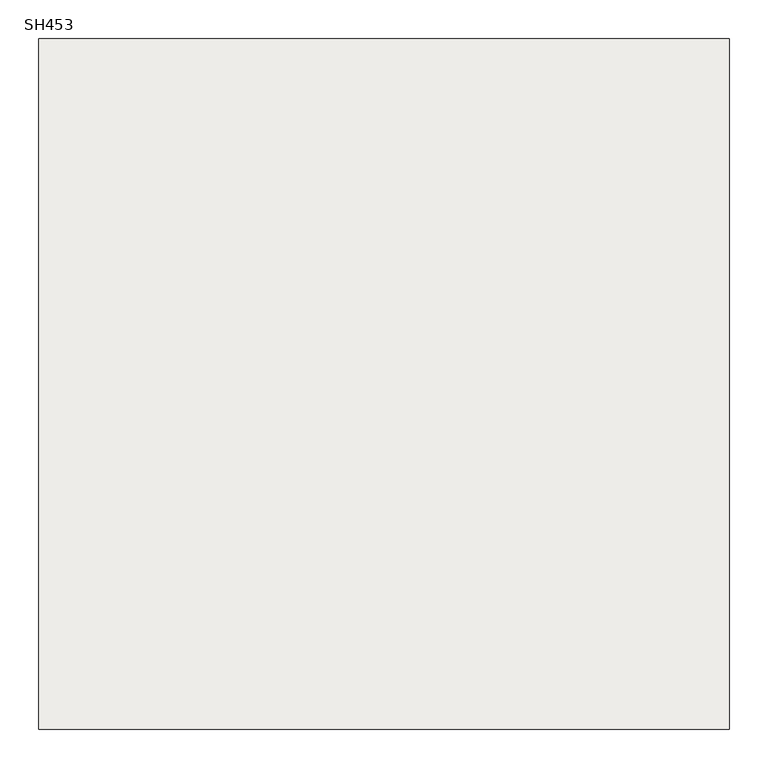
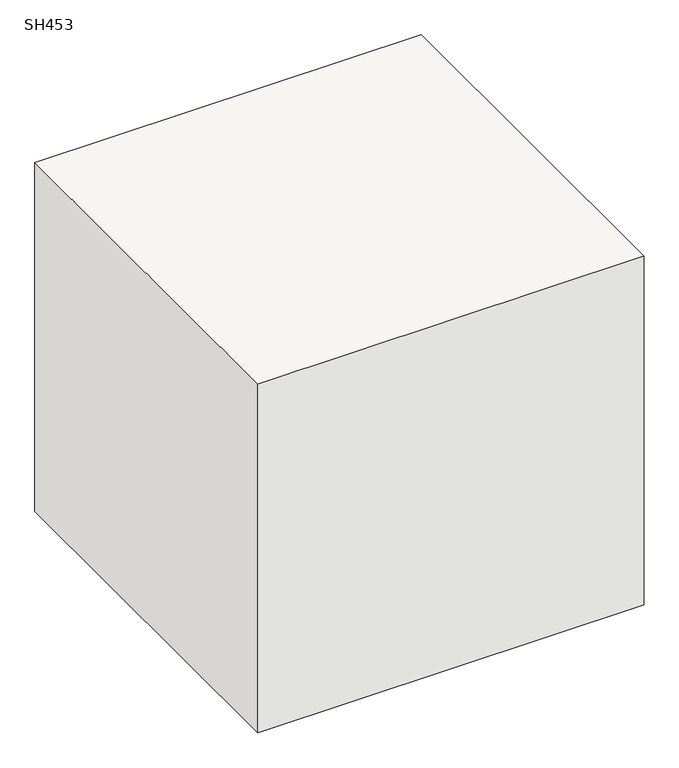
"""IFC4 building model written with IfcOpenShell, lengths in millimetres: slab geometry, 柱形_SH : SH453."""

from ifc_helpers import new_model, si_unit, frame, origin, place, context, project, spatial, polyline, outline, extrude, source, transform, mapped, element, save


def sh453_2a0722a9(model_context):
    return source(origin(), model_context, "Body", "SweptSolid", [
        extrude(outline(polyline([(445.0, 445.0), (445.0, -445.0), (-445.0, -445.0), (-445.0, 445.0), (445.0, 445.0)])), frame((0.0, 0.0, -850.0), z_axis=(0.0, 0.0, 1.0), x_axis=(1.0, 0.0, 0.0)), (0.0, 0.0, 1.0), 850.0),
    ])


if __name__ == "__main__":
    model = new_model("IFC4")
    model_context = context("Model", 3, world=origin())
    ifc_project = project(units=[si_unit("LENGTHUNIT", "METRE", prefix="MILLI")], contexts=[model_context])
    site = spatial("IfcSite", under=ifc_project)
    building = spatial("IfcBuilding", under=site)
    placement = place(None, origin())
    sh453_shape = sh453_2a0722a9(model_context)
    element("IfcSlab", 1, ObjectType="柱形_SH : SH453", at=placement, inside=building, context=model_context, shape_type="MappedRepresentation", body=[
        mapped(sh453_shape, transform((0.0, 0.0, 0.0), x_axis=(1.0, 0.0, 0.0), y_axis=(0.0, 1.0, 0.0), z_axis=(0.0, 0.0, 1.0))),
    ])
    save(model, "model.ifc")
